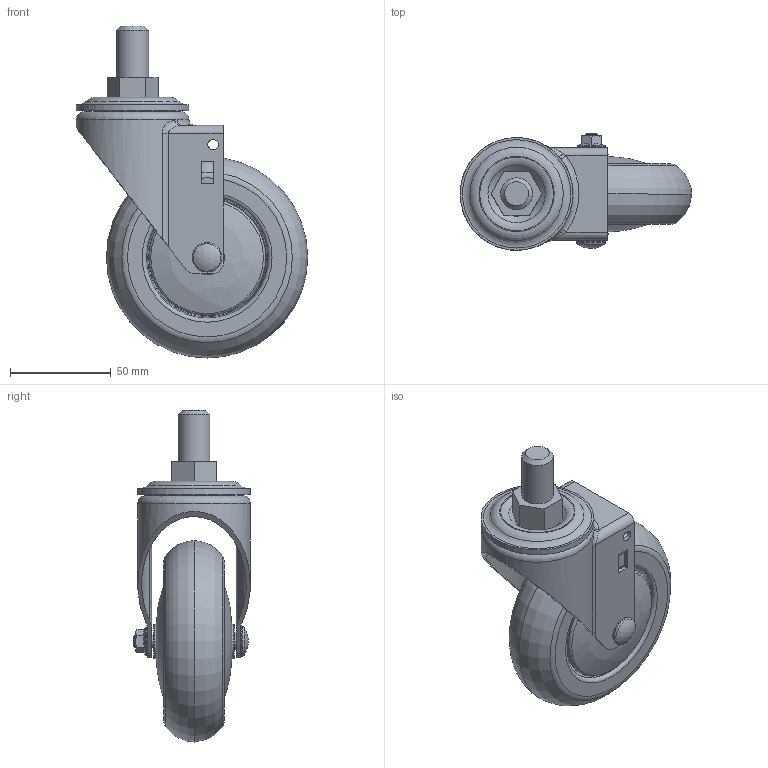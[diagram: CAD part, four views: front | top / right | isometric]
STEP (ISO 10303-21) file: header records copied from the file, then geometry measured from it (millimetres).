
FILE_DESCRIPTION(/* description */ (''),/* implementation_level */ '2;1');
FILE_NAME(/* name */ 'E:\홈피용도면\\X2\C2E0ADDCD648D398C774C9C0C6A9B3C4BA74\X0\\무소음캐스터\20160225-\X2\BB34C18CC74CCE90C2A4D130\X0\\GL-100-ASS.stp',/* time_stamp */ '2016-02-25T21:32:32+09:00',/* author */ ('장용하'),/* organization */ (''),/* preprocessor_version */ 'ST-DEVELOPER v15.6',/* originating_system */ 'Autodesk Inventor 2015',/* authorisation */ '');
FILE_SCHEMA (('AUTOMOTIVE_DESIGN { 1 0 10303 214 3 1 1 }'));
Length unit declared in the file: millimetre
Products named in the file (1): GL-100-ASS
Bounding box: 115 x 58 x 164.9 mm (x, y, z)
Volume: 224931.7 mm3; surface area: 73966.9 mm2
Topology: 2 solids, 2 shells, 247 faces, 525 edges, 324 vertices
Faces by surface type: plane 82, torus 71, cone 41, cylinder 32, bspline 20, sphere 1
Full cylindrical faces by diameter (mm): 5.2 x2, 6 x2, 6.2 x1, 7 x1, 8 x1, 11 x1, 11.2 x1, 14 x1, 14.6 x1, 15.875 x1, 22 x2, 24.645 x1, 41 x1, 56 x1
Entity records: 7590 total; most frequent: CARTESIAN_POINT 2777, DIRECTION 1018, ORIENTED_EDGE 802, AXIS2_PLACEMENT_3D 461, EDGE_LOOP 420, EDGE_CURVE 401, VERTEX_POINT 317, FACE_OUTER_BOUND 247
